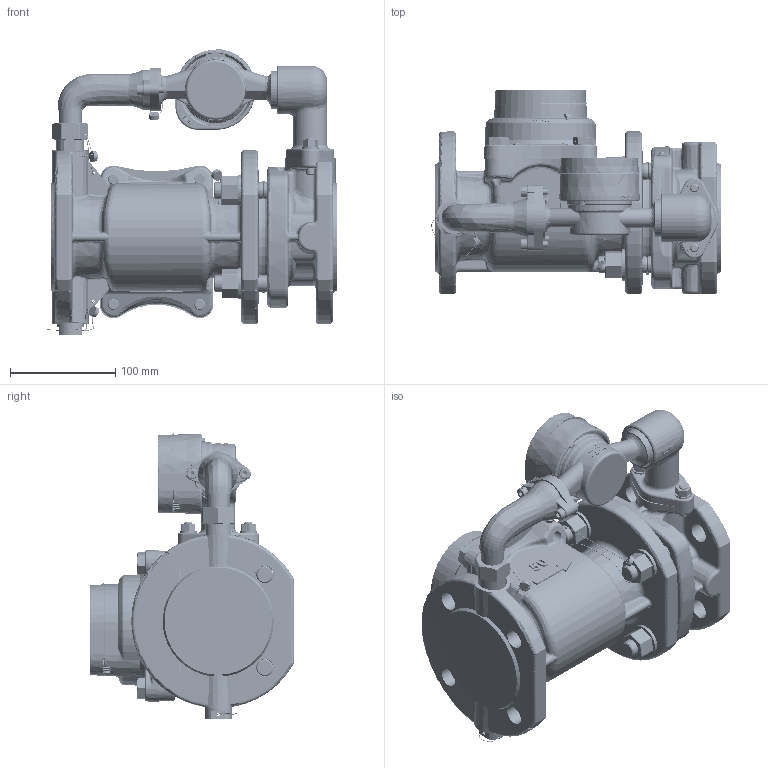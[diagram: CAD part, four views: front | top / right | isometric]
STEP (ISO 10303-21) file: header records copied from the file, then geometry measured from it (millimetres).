
FILE_DESCRIPTION (( 'STEP AP214' ), '1' );
FILE_NAME ('MWN_JS_50_4 IP68.STEP', '2025-07-14T12:18:02', ( '' ), ( '' ), 'SwSTEP 2.0', 'SolidWorks 2019', '' );
FILE_SCHEMA (( 'AUTOMOTIVE_DESIGN' ));
Length unit declared in the file: millimetre
Products named in the file (6): 5003-110009; 0000-004541; 5003-110011; 7411-100000; MWN_JS 50_4 IP65; MWN_JS_50_4 IP68
Assembly tree (5 placements, depth 3):
  MWN_JS_50_4 IP68
    MWN_JS 50_4 IP65
    7411-100000
      5003-110011
      0000-004541
    5003-110009
Bounding box: 274.74 x 193.76 x 271.81 mm (x, y, z)
Volume: 3683439.9 mm3; surface area: 701264.2 mm2
Topology: 79 solids, 97 shells, 6103 faces, 15606 edges, 9722 vertices
Faces by surface type: plane 2137, cylinder 1486, bspline 1026, cone 763, torus 505, sphere 186
Entity records: 309141 total; most frequent: CARTESIAN_POINT 109318, ORIENTED_EDGE 30908, DIRECTION 26645, EDGE_CURVE 15454, AXIS2_PLACEMENT_3D 10282, VERTEX_POINT 9714, EDGE_LOOP 6632, ADVANCED_FACE 6103
